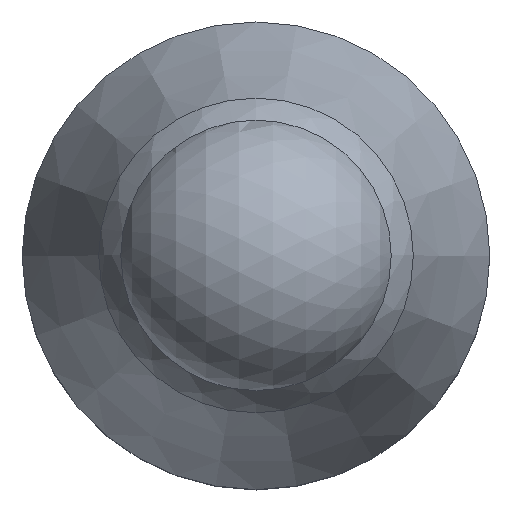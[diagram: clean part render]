
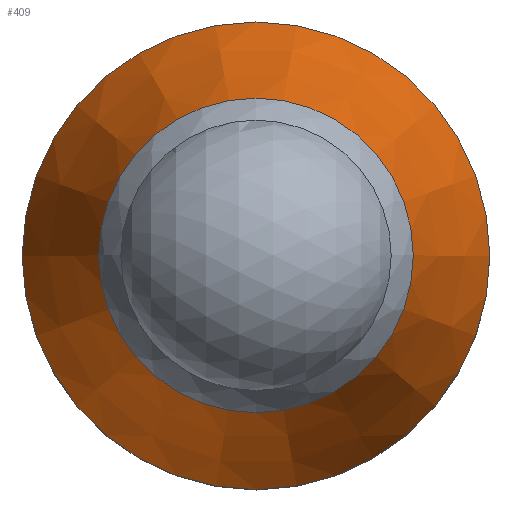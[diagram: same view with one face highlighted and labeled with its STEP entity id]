
A CAD part, top view. The second image highlights one B-rep face of the part: STEP entity #409.
In plain terms, the highlighted conical face has half-angle 19.983 degrees and reference radius 2 mm.
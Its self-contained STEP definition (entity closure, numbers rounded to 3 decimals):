
#53=CONICAL_SURFACE('',#545,2.,0.349);
#61=LINE('',#795,#89);
#89=VECTOR('',#630,2.);
#126=FACE_OUTER_BOUND('',#154,.T.);
#154=EDGE_LOOP('',(#317,#318,#319,#320,#321));
#178=CIRCLE('',#531,1.682);
#179=CIRCLE('',#532,1.682);
#187=CIRCLE('',#546,2.5);
#204=VERTEX_POINT('',#766);
#205=VERTEX_POINT('',#768);
#212=VERTEX_POINT('',#793);
#239=EDGE_CURVE('',#205,#204,#178,.T.);
#240=EDGE_CURVE('',#204,#205,#179,.T.);
#251=EDGE_CURVE('',#212,#212,#187,.T.);
#252=EDGE_CURVE('',#212,#205,#61,.T.);
#317=ORIENTED_EDGE('',*,*,#251,.F.);
#318=ORIENTED_EDGE('',*,*,#252,.T.);
#319=ORIENTED_EDGE('',*,*,#239,.T.);
#320=ORIENTED_EDGE('',*,*,#240,.T.);
#321=ORIENTED_EDGE('',*,*,#252,.F.);
#409=ADVANCED_FACE('',(#126),#53,.T.);
#531=AXIS2_PLACEMENT_3D('',#769,#595,#596);
#532=AXIS2_PLACEMENT_3D('',#770,#597,#598);
#545=AXIS2_PLACEMENT_3D('',#792,#626,#627);
#546=AXIS2_PLACEMENT_3D('',#794,#628,#629);
#595=DIRECTION('center_axis',(0.,0.,-1.));
#596=DIRECTION('ref_axis',(-1.,0.,0.));
#597=DIRECTION('center_axis',(0.,0.,-1.));
#598=DIRECTION('ref_axis',(-1.,0.,0.));
#626=DIRECTION('center_axis',(0.,0.,-1.));
#627=DIRECTION('ref_axis',(-1.,0.,0.));
#628=DIRECTION('center_axis',(0.,0.,-1.));
#629=DIRECTION('ref_axis',(1.,0.,0.));
#630=DIRECTION('',(-0.342,0.,0.94));
#766=CARTESIAN_POINT('',(-1.682,0.,4.5));
#768=CARTESIAN_POINT('',(1.682,0.,4.5));
#769=CARTESIAN_POINT('Origin',(0.,0.,4.5));
#770=CARTESIAN_POINT('Origin',(0.,0.,4.5));
#792=CARTESIAN_POINT('Origin',(0.,0.,3.625));
#793=CARTESIAN_POINT('',(2.5,0.,2.25));
#794=CARTESIAN_POINT('Origin',(0.,0.,2.25));
#795=CARTESIAN_POINT('',(2.,0.,3.625));
